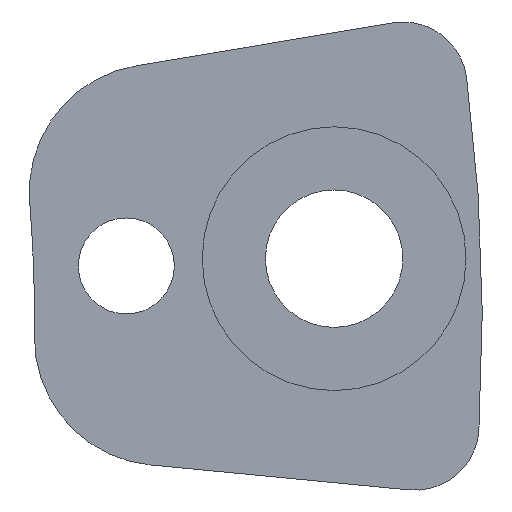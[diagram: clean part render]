
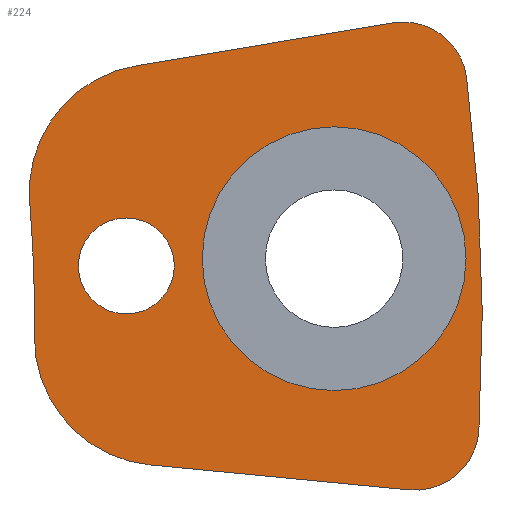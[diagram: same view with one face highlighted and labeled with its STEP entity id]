
A CAD part, left-side view. The second image highlights one B-rep face of the part: STEP entity #224.
In plain terms, the highlighted planar face has unit normal (-1, 0, 0).
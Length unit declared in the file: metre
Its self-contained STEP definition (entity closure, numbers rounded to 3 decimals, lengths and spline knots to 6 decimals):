
#21=LINE('',#372,#33);
#22=LINE('',#380,#34);
#33=VECTOR('',#295,1.);
#34=VECTOR('',#302,1.);
#45=ORIENTED_EDGE('',*,*,#105,.T.);
#46=ORIENTED_EDGE('',*,*,#106,.T.);
#47=ORIENTED_EDGE('',*,*,#107,.F.);
#48=ORIENTED_EDGE('',*,*,#108,.T.);
#49=ORIENTED_EDGE('',*,*,#109,.F.);
#50=ORIENTED_EDGE('',*,*,#110,.T.);
#51=ORIENTED_EDGE('',*,*,#111,.T.);
#52=ORIENTED_EDGE('',*,*,#112,.T.);
#53=ORIENTED_EDGE('',*,*,#113,.T.);
#54=ORIENTED_EDGE('',*,*,#114,.T.);
#105=EDGE_CURVE('',#135,#135,#157,.T.);
#106=EDGE_CURVE('',#136,#136,#158,.T.);
#107=EDGE_CURVE('',#137,#138,#159,.F.);
#108=EDGE_CURVE('',#137,#139,#160,.F.);
#109=EDGE_CURVE('',#140,#139,#21,.T.);
#110=EDGE_CURVE('',#140,#141,#161,.F.);
#111=EDGE_CURVE('',#141,#142,#162,.F.);
#112=EDGE_CURVE('',#142,#143,#163,.F.);
#113=EDGE_CURVE('',#143,#144,#22,.T.);
#114=EDGE_CURVE('',#144,#138,#164,.F.);
#135=VERTEX_POINT('',#364);
#136=VERTEX_POINT('',#366);
#137=VERTEX_POINT('',#368);
#138=VERTEX_POINT('',#369);
#139=VERTEX_POINT('',#371);
#140=VERTEX_POINT('',#373);
#141=VERTEX_POINT('',#375);
#142=VERTEX_POINT('',#377);
#143=VERTEX_POINT('',#379);
#144=VERTEX_POINT('',#381);
#157=CIRCLE('',#252,0.0015);
#158=CIRCLE('',#253,0.004125);
#159=CIRCLE('',#254,0.044);
#160=CIRCLE('',#255,0.004);
#161=CIRCLE('',#256,0.002);
#162=CIRCLE('',#257,0.058);
#163=CIRCLE('',#258,0.002);
#164=CIRCLE('',#259,0.004);
#175=EDGE_LOOP('',(#45));
#176=EDGE_LOOP('',(#46));
#177=EDGE_LOOP('',(#47,#48,#49,#50,#51,#52,#53,#54));
#197=FACE_BOUND('',#175,.T.);
#198=FACE_BOUND('',#176,.T.);
#199=FACE_BOUND('',#177,.T.);
#219=PLANE('',#251);
#224=ADVANCED_FACE('',(#197,#198,#199),#219,.F.);
#251=AXIS2_PLACEMENT_3D('',#362,#285,#286);
#252=AXIS2_PLACEMENT_3D('',#363,#287,#288);
#253=AXIS2_PLACEMENT_3D('',#365,#289,#290);
#254=AXIS2_PLACEMENT_3D('',#367,#291,#292);
#255=AXIS2_PLACEMENT_3D('',#370,#293,#294);
#256=AXIS2_PLACEMENT_3D('',#374,#296,#297);
#257=AXIS2_PLACEMENT_3D('',#376,#298,#299);
#258=AXIS2_PLACEMENT_3D('',#378,#300,#301);
#259=AXIS2_PLACEMENT_3D('',#382,#303,#304);
#285=DIRECTION('',(1.,0.,0.));
#286=DIRECTION('',(0.,1.,0.));
#287=DIRECTION('',(1.,0.,0.));
#288=DIRECTION('',(0.,0.,-1.));
#289=DIRECTION('',(1.,0.,0.));
#290=DIRECTION('',(0.,0.,-1.));
#291=DIRECTION('',(1.,0.,0.));
#292=DIRECTION('',(0.,0.,-1.));
#293=DIRECTION('',(1.,0.,0.));
#294=DIRECTION('',(0.,0.,-1.));
#295=DIRECTION('',(0.,0.995,0.096));
#296=DIRECTION('',(1.,0.,0.));
#297=DIRECTION('',(0.,0.,-1.));
#298=DIRECTION('',(1.,0.,0.));
#299=DIRECTION('',(0.,0.,-1.));
#300=DIRECTION('',(1.,0.,0.));
#301=DIRECTION('',(0.,0.,-1.));
#302=DIRECTION('',(0.,0.986,-0.165));
#303=DIRECTION('',(1.,0.,0.));
#304=DIRECTION('',(0.,0.,-1.));
#362=CARTESIAN_POINT('',(0.055,0.,-0.064));
#363=CARTESIAN_POINT('',(0.055,-0.046871,-0.062363));
#364=CARTESIAN_POINT('',(0.055,-0.046871,-0.063863));
#365=CARTESIAN_POINT('',(0.055,-0.053367,-0.062136));
#366=CARTESIAN_POINT('',(0.055,-0.053367,-0.066261));
#367=CARTESIAN_POINT('',(0.055,0.,-0.064));
#368=CARTESIAN_POINT('',(0.055,-0.043997,-0.064553));
#369=CARTESIAN_POINT('',(0.055,-0.043851,-0.06038));
#370=CARTESIAN_POINT('',(0.055,-0.047996,-0.064603));
#371=CARTESIAN_POINT('',(0.055,-0.047613,-0.068585));
#372=CARTESIAN_POINT('',(0.055,-0.055244,-0.069319));
#373=CARTESIAN_POINT('',(0.055,-0.055707,-0.069364));
#374=CARTESIAN_POINT('',(0.055,-0.055898,-0.067373));
#375=CARTESIAN_POINT('',(0.055,-0.057895,-0.067494));
#376=CARTESIAN_POINT('',(0.055,0.,-0.064));
#377=CARTESIAN_POINT('',(0.055,-0.05751,-0.056476));
#378=CARTESIAN_POINT('',(0.055,-0.055527,-0.056736));
#379=CARTESIAN_POINT('',(0.055,-0.055197,-0.054763));
#380=CARTESIAN_POINT('',(0.055,-0.054739,-0.05484));
#381=CARTESIAN_POINT('',(0.055,-0.047177,-0.056105));
#382=CARTESIAN_POINT('',(0.055,-0.047837,-0.06005));
